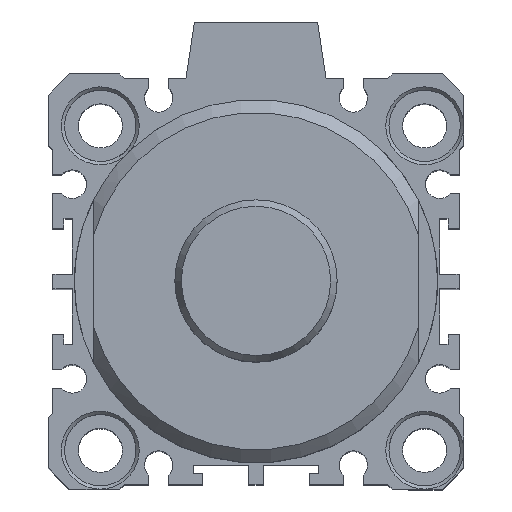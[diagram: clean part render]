
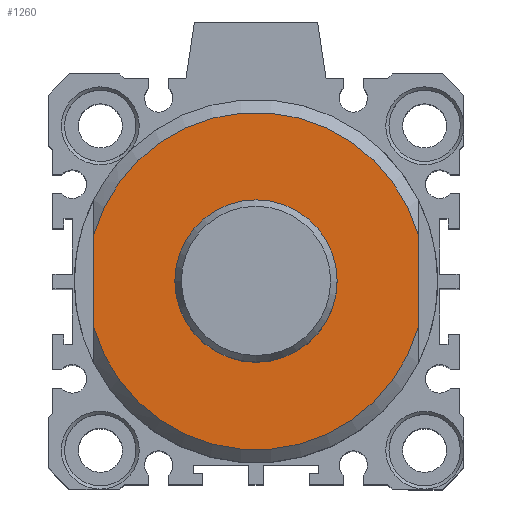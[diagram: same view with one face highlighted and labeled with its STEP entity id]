
A CAD part, top view. The second image highlights one B-rep face of the part: STEP entity #1260.
In plain terms, the highlighted planar face has unit normal (0, 0, 1).
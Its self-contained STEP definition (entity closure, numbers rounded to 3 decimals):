
#49=CARTESIAN_POINT('',(17.943,8.936,107.));
#50=VERTEX_POINT('',#49);
#75=CARTESIAN_POINT('',(-32.057,8.936,107.));
#76=VERTEX_POINT('',#75);
#90=CARTESIAN_POINT('',(-7.057,1.794,107.));
#91=DIRECTION('',(0.0,0.0,-1.0));
#92=DIRECTION('',(0.0,1.0,0.0));
#93=AXIS2_PLACEMENT_3D('',#90,#91,#92);
#94=CIRCLE('',#93,26.);
#95=EDGE_CURVE('',#76,#50,#94,.T.);
#130=CARTESIAN_POINT('',(-32.057,-5.347,107.));
#131=VERTEX_POINT('',#130);
#145=CARTESIAN_POINT('',(-32.057,8.936,107.));
#146=DIRECTION('',(0.0,-1.0,0.0));
#147=VECTOR('',#146,14.283);
#148=LINE('',#145,#147);
#149=EDGE_CURVE('',#76,#131,#148,.T.);
#240=CARTESIAN_POINT('',(17.943,-5.347,107.));
#241=VERTEX_POINT('',#240);
#255=CARTESIAN_POINT('',(-7.057,1.794,107.));
#256=DIRECTION('',(0.0,0.0,-1.0));
#257=DIRECTION('',(0.0,-1.0,0.0));
#258=AXIS2_PLACEMENT_3D('',#255,#256,#257);
#259=CIRCLE('',#258,26.);
#260=EDGE_CURVE('',#241,#131,#259,.T.);
#1178=CARTESIAN_POINT('',(-7.057,14.294,107.));
#1179=VERTEX_POINT('',#1178);
#1180=CARTESIAN_POINT('',(-7.057,1.794,107.));
#1181=DIRECTION('',(0.0,0.0,-1.0));
#1182=DIRECTION('',(0.0,1.0,0.0));
#1183=AXIS2_PLACEMENT_3D('',#1180,#1181,#1182);
#1184=CIRCLE('',#1183,12.5);
#1185=EDGE_CURVE('',#1179,#1179,#1184,.T.);
#1208=CARTESIAN_POINT('',(17.943,-5.347,107.));
#1209=DIRECTION('',(0.0,1.0,0.0));
#1210=VECTOR('',#1209,14.283);
#1211=LINE('',#1208,#1210);
#1212=EDGE_CURVE('',#241,#50,#1211,.T.);
#1246=CARTESIAN_POINT('',(-7.057,22.044,107.));
#1247=DIRECTION('',(0.0,0.0,1.0));
#1248=DIRECTION('',(1.0,0.0,0.0));
#1249=AXIS2_PLACEMENT_3D('',#1246,#1247,#1248);
#1250=PLANE('',#1249);
#1251=ORIENTED_EDGE('',*,*,#95,.F.);
#1252=ORIENTED_EDGE('',*,*,#149,.T.);
#1253=ORIENTED_EDGE('',*,*,#260,.F.);
#1254=ORIENTED_EDGE('',*,*,#1212,.T.);
#1255=EDGE_LOOP('',(#1251,#1252,#1253,#1254));
#1256=FACE_OUTER_BOUND('',#1255,.T.);
#1257=ORIENTED_EDGE('',*,*,#1185,.T.);
#1258=EDGE_LOOP('',(#1257));
#1259=FACE_BOUND('',#1258,.T.);
#1260=ADVANCED_FACE('',(#1256,#1259),#1250,.T.);
